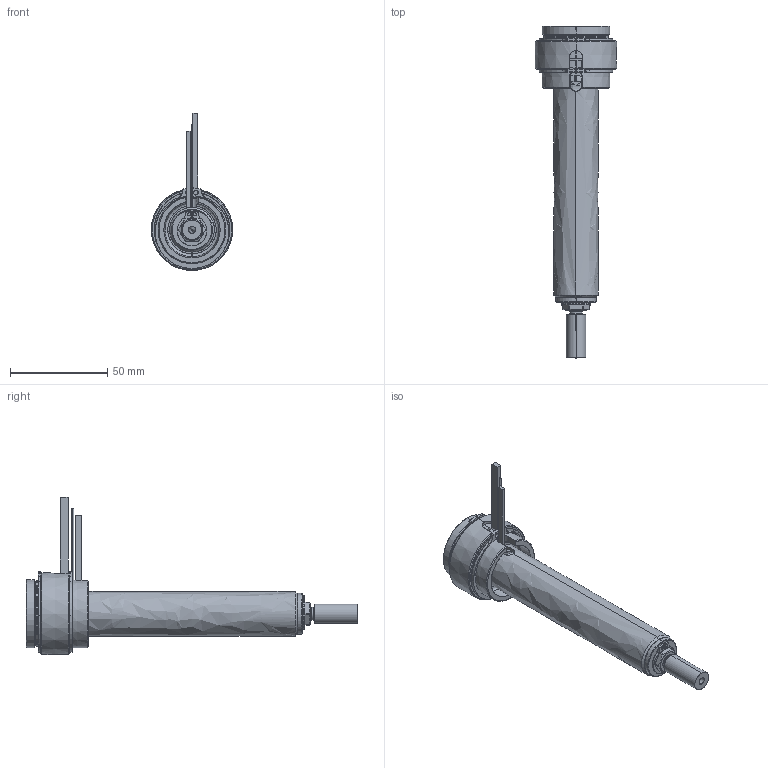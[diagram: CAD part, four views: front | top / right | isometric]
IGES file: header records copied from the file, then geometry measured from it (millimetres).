
Start section: SolidWorks IGES file using analytic representation for surfaces
Global section: file name: C:\Users\luca.EMPAD\Desktop\TEM\UGBE3503-S-A-P-3 [Ød-1.0 P-20 ØC-7.0].IGS; native system: SolidWorks 2012; preprocessor: SolidWorks 2012; author: luca; date: 120330.140532; units: millimetre
Bounding box: 42 x 171 x 80.9 mm (x, y, z)
Surface area: 38622.7 mm2 (no closed solid volume)
Topology: 0 solids, 0 shells, 192 faces, 3538 edges, 3538 vertices
Faces by surface type: revolution 124, bspline 68
